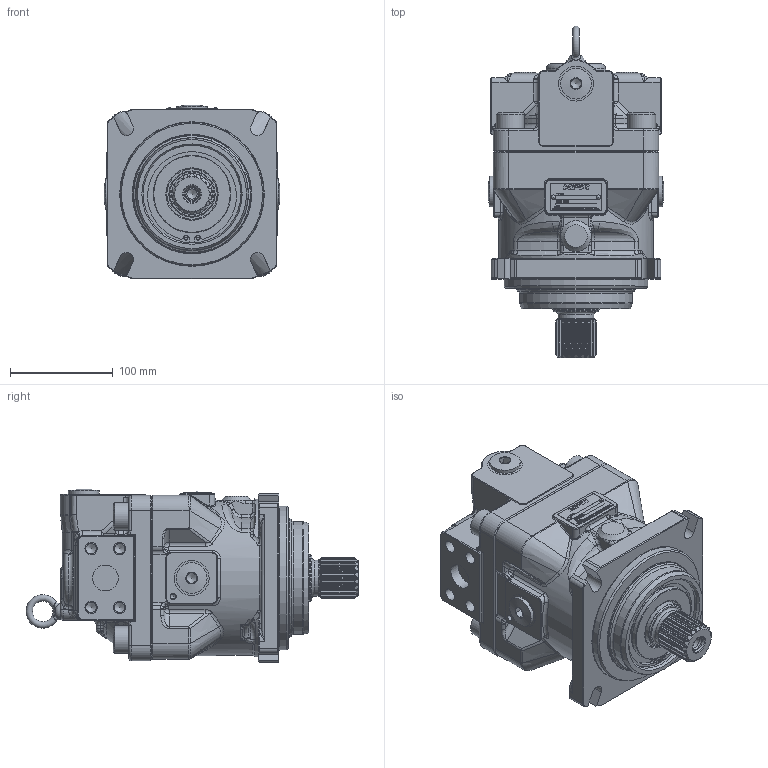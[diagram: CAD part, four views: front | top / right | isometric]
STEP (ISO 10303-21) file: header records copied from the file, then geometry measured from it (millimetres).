
FILE_DESCRIPTION(/* description */ (''),/* implementation_level */ '2;1');
FILE_NAME(/* name */ 'O:\80_個人\10_入業者\林\\X2\63D051FA30C730FC30BF\X0\\2020年度\2020.10.09-M7X\X2\591689B3\X0\-第一回\M7X85AD46.stp',/* time_stamp */ '2020-10-05T10:40:20+09:00',/* author */ ('PG14415'),/* organization */ (''),/* preprocessor_version */ 'ST-DEVELOPER v16.5',/* originating_system */ 'Autodesk Inventor 2017',/* authorisation */ '');
FILE_SCHEMA (('AUTOMOTIVE_DESIGN { 1 0 10303 214 3 1 1 }'));
Products named in the file (1): Part11
Bounding box: 171 x 323.3 x 169 mm (x, y, z)
Volume: 4607057.6 mm3; surface area: 240945.6 mm2
Topology: 1 solids, 11 shells, 1907 faces, 4780 edges, 2936 vertices
Faces by surface type: plane 893, cylinder 404, bspline 326, cone 139, torus 110, sphere 35
Full cylindrical faces by diameter (mm): 2.13 x2, 2.2 x4, 2.5 x2, 3 x1, 5 x2, 6 x3, 6.647 x2, 10.106 x9, 12 x9, 14 x1, 18 x4, 20 x4, 21 x2, 24 x2, 25 x2, 27 x4, 29 x4, 30 x5, 34 x3, 35 x1, 45 x1, 49 x1, 74 x1, 75.5 x1, 95 x2, 98.5 x1, 110 x1, 115.5 x1, 140 x1
Entity records: 65584 total; most frequent: CARTESIAN_POINT 20946, ORIENTED_EDGE 9026, DIRECTION 8232, EDGE_CURVE 4513, AXIS2_PLACEMENT_3D 2899, VERTEX_POINT 2865, LINE 2434, VECTOR 2434
